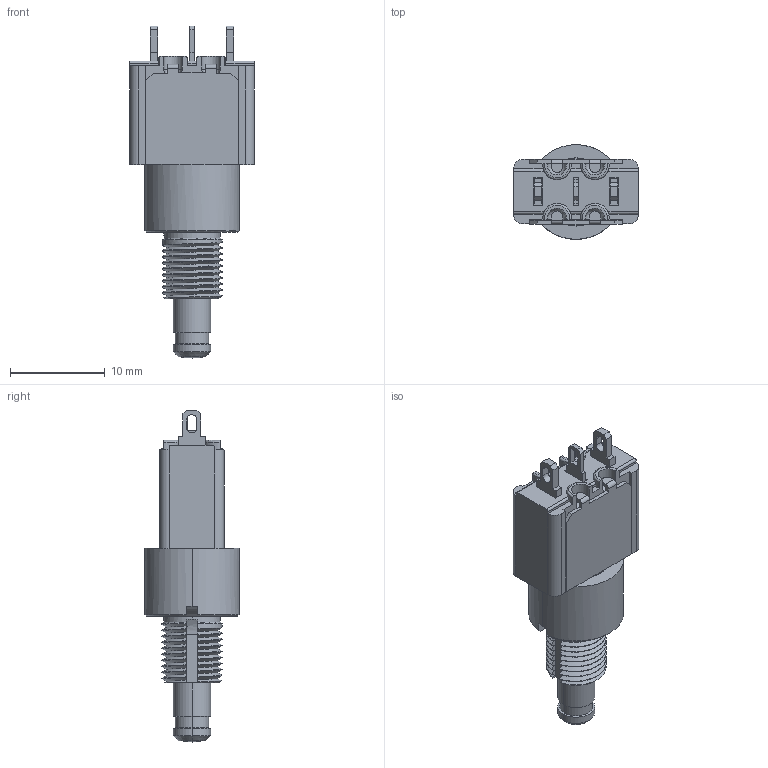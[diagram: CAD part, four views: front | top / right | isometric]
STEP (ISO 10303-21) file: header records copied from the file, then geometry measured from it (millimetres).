
FILE_DESCRIPTION((''),'2;1');
FILE_NAME('8632_A_','2011-05-02T',('rboyer'),(''),'PRO/ENGINEER BY PARAMETRIC TECHNOLOGY CORPORATION, 2009440','PRO/ENGINEER BY PARAMETRIC TECHNOLOGY CORPORATION, 2009440','');
FILE_SCHEMA(('CONFIG_CONTROL_DESIGN'));
Length unit declared in the file: millimetre
Products named in the file (1): 8632_A_
Bounding box: 13.2 x 10 x 35.06 mm (x, y, z)
Volume: 1113.4 mm3; surface area: 2495.5 mm2
Topology: 3 solids, 3 shells, 483 faces, 1389 edges, 884 vertices
Faces by surface type: plane 294, cylinder 113, bspline 36, cone 26, sphere 10, torus 4
Entity records: 20782 total; most frequent: CARTESIAN_POINT 8337, ORIENTED_EDGE 2770, DIRECTION 2362, EDGE_CURVE 1385, VECTOR 936, LINE 936, VERTEX_POINT 884, AXIS2_PLACEMENT_3D 713
